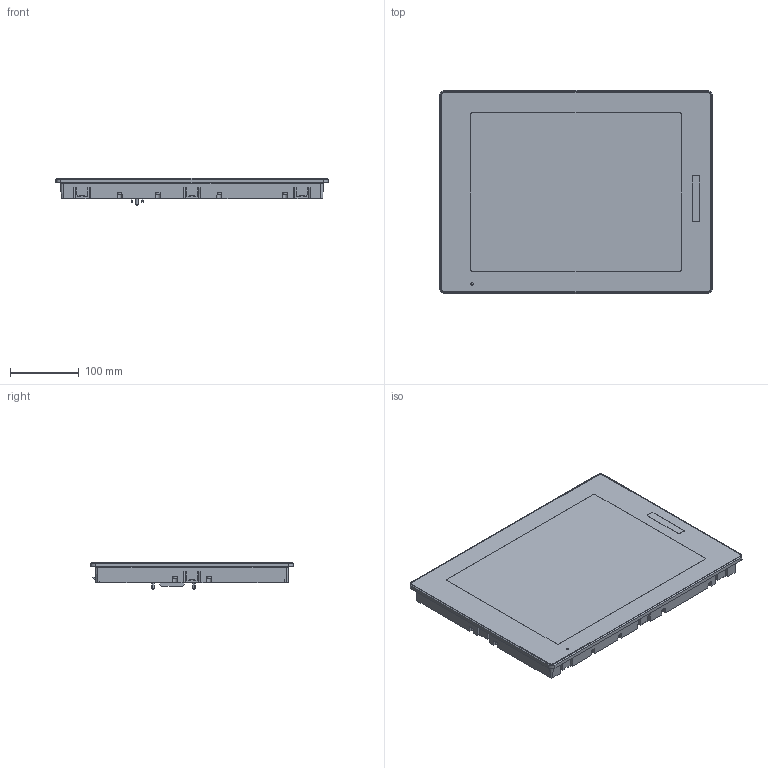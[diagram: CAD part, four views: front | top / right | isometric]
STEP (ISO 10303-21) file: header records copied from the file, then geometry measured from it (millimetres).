
FILE_DESCRIPTION (( 'STEP AP203' ), '1' );
FILE_NAME ('20200221_15_niji_display_asm.STEP', '2020-04-01T15:32:34', ( 'Caca' ), ( '' ), 'SwSTEP 2.0', 'SolidWorks 2017', '' );
FILE_SCHEMA (( 'CONFIG_CONTROL_DESIGN' ));
Length unit declared in the file: millimetre
Products named in the file (1): 20200221_15_niji_display_asm
Bounding box: 397 x 296 x 40 mm (x, y, z)
Volume: 3236823.2 mm3; surface area: 285536.6 mm2
Topology: 1 solids, 1 shells, 613 faces, 1584 edges, 1044 vertices
Faces by surface type: plane 380, cylinder 146, cone 87
Entity records: 18850 total; most frequent: CARTESIAN_POINT 3383, DIRECTION 3245, ORIENTED_EDGE 3168, EDGE_CURVE 1584, VECTOR 1099, LINE 1099, AXIS2_PLACEMENT_3D 1073, VERTEX_POINT 1044
